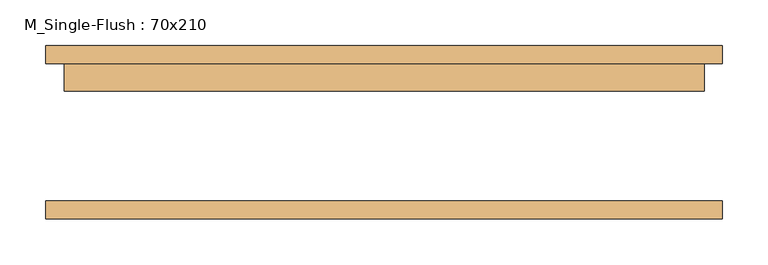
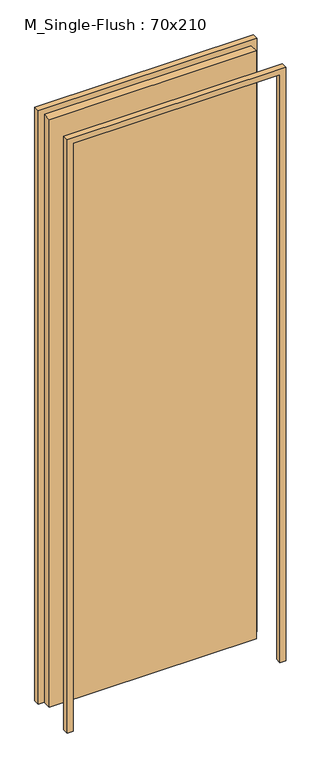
"""IFC4 building model written with IfcOpenShell, lengths in millimetres: door geometry, M_Single-Flush : 70x210."""

from ifc_helpers import new_model, si_unit, frame, origin, origin_with_axes, place, context, project, spatial, polyline, outline, extrude, source, transform, mapped, element, save


def m_single_flush_70x210_7b3a3d44(model_context):
    return source(origin(), model_context, "Body", "SweptSolid", [
        extrude(outline(polyline([(2120.0, -370.0), (0.0, -370.0), (0.0, -350.0), (2100.0, -350.0), (2100.0, 350.0), (0.0, 350.0), (0.0, 370.0), (2120.0, 370.0), (2120.0, -370.0)])), frame((0.0, 75.0, 0.0), z_axis=(0.0, 1.0, 0.0), x_axis=(0.0, 0.0, 1.0)), (0.0, 0.0, 1.0), 20.0),
        extrude(outline(polyline([(2120.0, 370.0), (2120.0, -370.0), (0.0, -370.0), (0.0, -350.0), (2100.0, -350.0), (2100.0, 350.0), (0.0, 350.0), (0.0, 370.0), (2120.0, 370.0)])), frame((0.0, -95.0, 0.0), z_axis=(0.0, 1.0, 0.0), x_axis=(0.0, 0.0, 1.0)), (0.0, 0.0, 1.0), 20.0),
        extrude(outline(polyline([(350.0, 45.0), (-350.0, 45.0), (-350.0, 75.0), (350.0, 75.0), (350.0, 45.0)])), origin_with_axes(), (0.0, 0.0, 1.0), 2100.0),
    ])


if __name__ == "__main__":
    model = new_model("IFC4")
    model_context = context("Model", 3, world=origin())
    ifc_project = project(units=[si_unit("LENGTHUNIT", "METRE", prefix="MILLI")], contexts=[model_context])
    site = spatial("IfcSite", under=ifc_project)
    building = spatial("IfcBuilding", under=site)
    placement = place(None, origin())
    m_single_flush_70x210_shape = m_single_flush_70x210_7b3a3d44(model_context)
    element("IfcDoor", 1, ObjectType="M_Single-Flush : 70x210", at=placement, inside=building, context=model_context, shape_type="MappedRepresentation", body=[
        mapped(m_single_flush_70x210_shape, transform((0.0, 0.0, 0.0), x_axis=(1.0, 0.0, 0.0), y_axis=(0.0, 1.0, 0.0), z_axis=(0.0, 0.0, 1.0))),
    ])
    save(model, "model.ifc")
